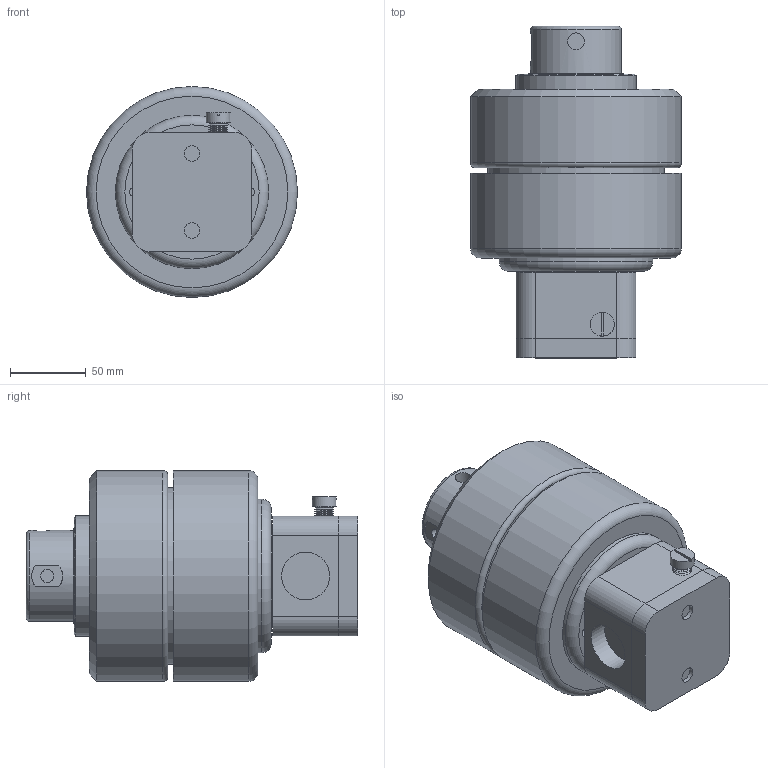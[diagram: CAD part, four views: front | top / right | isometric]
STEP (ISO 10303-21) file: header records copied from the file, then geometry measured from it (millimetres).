
FILE_DESCRIPTION (( 'STEP AP214' ), '1' );
FILE_NAME ('DBA060 INLINE.STEP', '2013-04-24T16:31:19', ( '' ), ( '' ), 'SwSTEP 2.0', 'SolidWorks 2012', '' );
FILE_SCHEMA (( 'AUTOMOTIVE_DESIGN' ));
Length unit declared in the file: inch
Products named in the file (1): DBA060 INLINE
Bounding box: 139.7 x 219.74 x 139.7 mm (x, y, z)
Volume: 2677549.3 mm3; surface area: 209327.7 mm2
Topology: 11 solids, 11 shells, 235 faces, 466 edges, 293 vertices
Faces by surface type: plane 83, cylinder 78, cone 70, torus 4
Full cylindrical faces by diameter (mm): 3.251 x16, 6.35 x2, 6.775 x3, 8.611 x1, 10.264 x15, 10.312 x2, 11.125 x1, 11.43 x3, 15.875 x1, 18.923 x3, 22.225 x1, 31.75 x2, 60.325 x1, 62.332 x1, 62.63 x1, 65.278 x1, 80.01 x1, 101.6 x1, 116.611 x1, 139.7 x2
Entity records: 5466 total; most frequent: DIRECTION 988, CARTESIAN_POINT 919, ORIENTED_EDGE 594, AXIS2_PLACEMENT_3D 458, EDGE_LOOP 408, FACE_OUTER_BOUND 298, EDGE_CURVE 297, VERTEX_POINT 257
